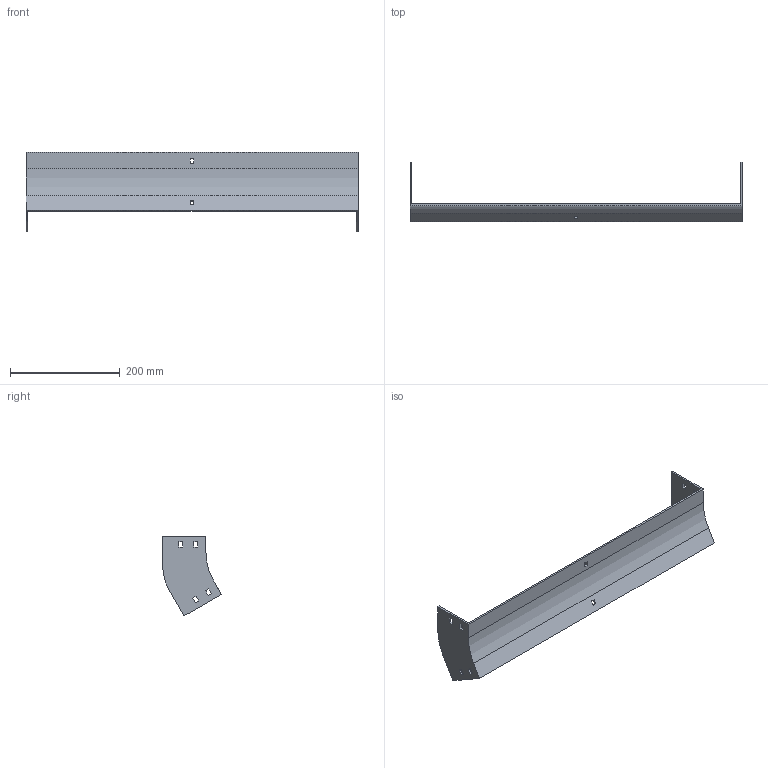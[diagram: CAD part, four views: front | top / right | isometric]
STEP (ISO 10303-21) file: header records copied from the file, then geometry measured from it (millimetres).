
FILE_DESCRIPTION (( 'STEP AP214' ), '1' );
FILE_NAME ('35F1C600.step', '2025-02-21T12:50:10', ( '' ), ( '' ), 'SwSTEP 2.0', 'SolidWorks 2023', '' );
FILE_SCHEMA (( 'AUTOMOTIVE_DESIGN' ));
Length unit declared in the file: millimetre
Products named in the file (1): 35F1C600
Bounding box: 604 x 107.4 x 145.48 mm (x, y, z)
Volume: 308842.1 mm3; surface area: 184011.7 mm2
Topology: 1 solids, 1 shells, 58 faces, 168 edges, 112 vertices
Faces by surface type: plane 54, cylinder 4
Entity records: 1943 total; most frequent: CARTESIAN_POINT 339, ORIENTED_EDGE 336, DIRECTION 294, EDGE_CURVE 168, LINE 160, VECTOR 160, VERTEX_POINT 112, EDGE_LOOP 78
